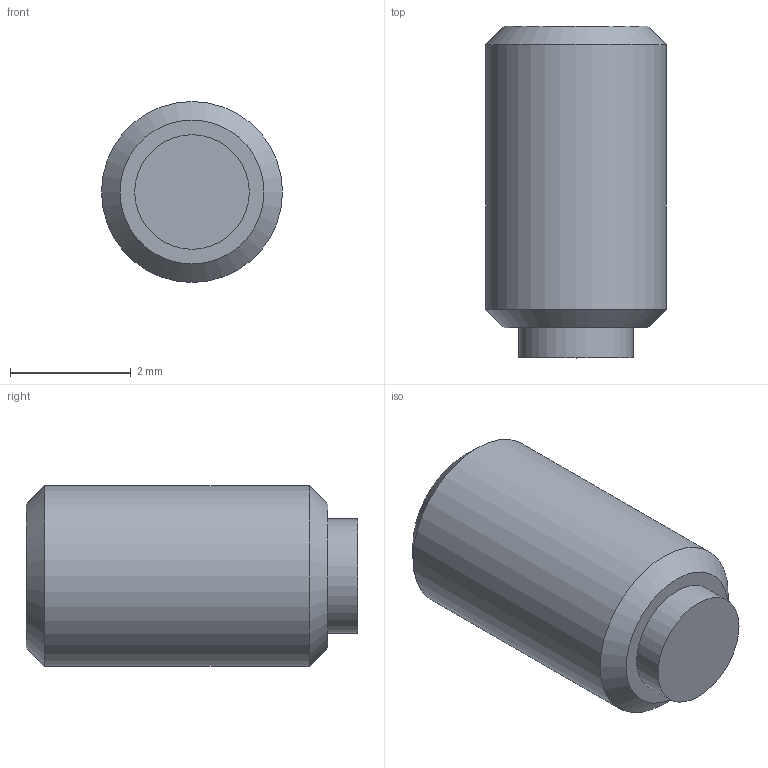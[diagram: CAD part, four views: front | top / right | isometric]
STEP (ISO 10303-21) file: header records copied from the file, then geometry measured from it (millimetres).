
FILE_DESCRIPTION( ( 'STEP AP203' ), '1' );
FILE_NAME( 'C:/Temp/Ganter_Step_05_03_2020/data/3_2/gn913_3/Grub screw GN 913.3-M3-5-MS.stp', '2020-03-13T05:35:43', ( 'License CC BY-ND 4.0' ), ( 'CADENAS' ), ' ', 'PARTsolutions', ' ' );
FILE_SCHEMA( ( 'CONFIG_CONTROL_DESIGN' ) );
Length unit declared in the file: millimetre
Products named in the file (1): _Grub screw GN 913.3-M3-5-MS
Bounding box: 3 x 5.5 x 3 mm (x, y, z)
Volume: 33 mm3; surface area: 68.4 mm2
Topology: 1 solids, 1 shells, 14 faces, 28 edges, 18 vertices
Faces by surface type: plane 10, cylinder 2, cone 2
Full cylindrical faces by diameter (mm): 1.9 x1, 3 x1
Entity records: 386 total; most frequent: DIRECTION 60, CARTESIAN_POINT 57, ORIENTED_EDGE 48, EDGE_CURVE 24, AXIS2_PLACEMENT_3D 21, EDGE_LOOP 20, VERTEX_POINT 18, LINE 18
